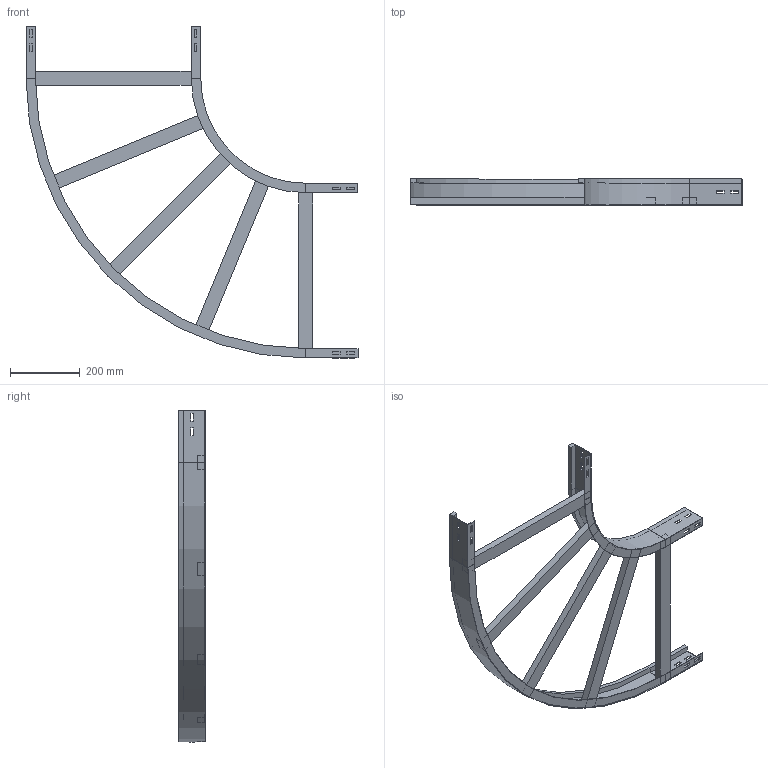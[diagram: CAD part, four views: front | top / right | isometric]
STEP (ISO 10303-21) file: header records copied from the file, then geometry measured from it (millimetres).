
FILE_DESCRIPTION (( 'STEP AP214' ), '1' );
FILE_NAME ('A2_10B3C500.step', '2025-02-21T15:26:27', ( '' ), ( '' ), 'SwSTEP 2.0', 'SolidWorks 2023', '' );
FILE_SCHEMA (( 'AUTOMOTIVE_DESIGN' ));
Length unit declared in the file: millimetre
Products named in the file (4): A2_LONGH.INTERNO 90°_H75_R300; TRAVERSINO_500; A2_LONGH.ESTERNO 90°_H75_R300+500; A2_10B3C500
Assembly tree (7 placements, depth 2):
  A2_10B3C500
    A2_LONGH.INTERNO 90°_H75_R300
    A2_LONGH.ESTERNO 90°_H75_R300+500
    TRAVERSINO_500  x5
Bounding box: 950 x 75 x 950 mm (x, y, z)
Volume: 2916399.4 mm3; surface area: 856054.7 mm2
Topology: 7 solids, 7 shells, 146 faces, 364 edges, 232 vertices
Faces by surface type: plane 138, cylinder 8
Entity records: 3837 total; most frequent: CARTESIAN_POINT 648, ORIENTED_EDGE 632, DIRECTION 596, EDGE_CURVE 316, VECTOR 300, LINE 300, VERTEX_POINT 200, EDGE_LOOP 154
